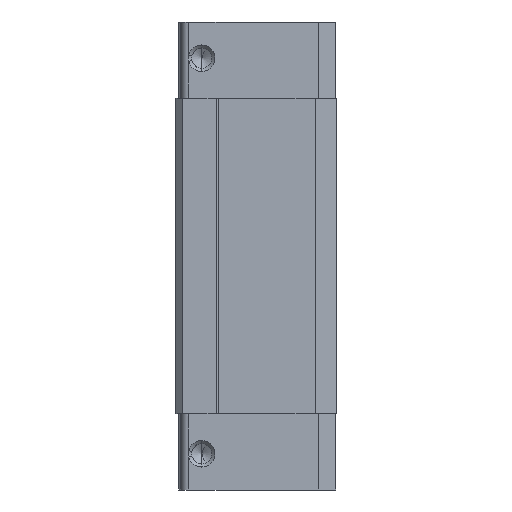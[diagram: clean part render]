
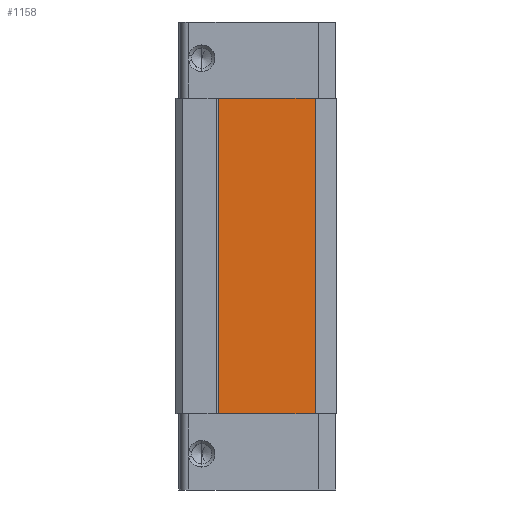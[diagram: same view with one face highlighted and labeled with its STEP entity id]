
A CAD part, left-side view. The second image highlights one B-rep face of the part: STEP entity #1158.
In plain terms, the highlighted planar face has unit normal (-1, 0, 0).
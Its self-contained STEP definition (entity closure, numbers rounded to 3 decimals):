
#1158 = ADVANCED_FACE ( 'NONE', ( #3646 ), #3564, .F. ) ;
#1159 = EDGE_LOOP ( 'NONE', ( #1160, #1283, #1275, #1271 ) ) ;
#1160 = ORIENTED_EDGE ( 'NONE', *, *, #1250, .T. ) ;
#1165 = VERTEX_POINT ( 'NONE', #3586 ) ;
#1167 = EDGE_CURVE ( 'NONE', #1168, #1165, #3589, .T. ) ;
#1168 = VERTEX_POINT ( 'NONE', #3615 ) ;
#1250 = EDGE_CURVE ( 'NONE', #1165, #1251, #5426, .T. ) ;
#1251 = VERTEX_POINT ( 'NONE', #5424 ) ;
#1271 = ORIENTED_EDGE ( 'NONE', *, *, #1167, .T. ) ;
#1273 = EDGE_CURVE ( 'NONE', #1274, #1251, #5459, .T. ) ;
#1274 = VERTEX_POINT ( 'NONE', #5335 ) ;
#1275 = ORIENTED_EDGE ( 'NONE', *, *, #1276, .F. ) ;
#1276 = EDGE_CURVE ( 'NONE', #1168, #1274, #5342, .T. ) ;
#1283 = ORIENTED_EDGE ( 'NONE', *, *, #1273, .F. ) ;
#3564 = PLANE ( 'NONE',  #3566 ) ;
#3565 = CARTESIAN_POINT ( 'NONE',  ( -16.7, -14.1, 19.6 ) ) ;
#3566 = AXIS2_PLACEMENT_3D ( 'NONE', #3565, #3569, #3568 ) ;
#3568 = DIRECTION ( 'NONE',  ( 0., 1., 0. ) ) ;
#3569 = DIRECTION ( 'NONE',  ( 1., 0., 0. ) ) ;
#3586 = CARTESIAN_POINT ( 'NONE',  ( -16.7, -2.1, -19.6 ) ) ;
#3587 = VECTOR ( 'NONE', #3616, 1000. ) ;
#3588 = CARTESIAN_POINT ( 'NONE',  ( -16.7, -2.1, 19.6 ) ) ;
#3589 = LINE ( 'NONE', #3588, #3587 ) ;
#3615 = CARTESIAN_POINT ( 'NONE',  ( -16.7, -2.1, 19.6 ) ) ;
#3616 = DIRECTION ( 'NONE',  ( 0., 0., -1. ) ) ;
#3646 = FACE_OUTER_BOUND ( 'NONE', #1159, .T. ) ;
#5335 = CARTESIAN_POINT ( 'NONE',  ( -16.7, -14.1, 19.6 ) ) ;
#5336 = DIRECTION ( 'NONE',  ( 0., 0., -1. ) ) ;
#5337 = VECTOR ( 'NONE', #5336, 1000. ) ;
#5339 = DIRECTION ( 'NONE',  ( 0., -1., 0. ) ) ;
#5340 = VECTOR ( 'NONE', #5339, 1000. ) ;
#5341 = CARTESIAN_POINT ( 'NONE',  ( -16.7, -14.1, 19.6 ) ) ;
#5342 = LINE ( 'NONE', #5341, #5340 ) ;
#5406 = CARTESIAN_POINT ( 'NONE',  ( -16.7, -14.1, -19.6 ) ) ;
#5424 = CARTESIAN_POINT ( 'NONE',  ( -16.7, -14.1, -19.6 ) ) ;
#5425 = DIRECTION ( 'NONE',  ( 0., -1., 0. ) ) ;
#5426 = LINE ( 'NONE', #5406, #5448 ) ;
#5448 = VECTOR ( 'NONE', #5425, 1000. ) ;
#5456 = CARTESIAN_POINT ( 'NONE',  ( -16.7, -14.1, 19.6 ) ) ;
#5459 = LINE ( 'NONE', #5456, #5337 ) ;
